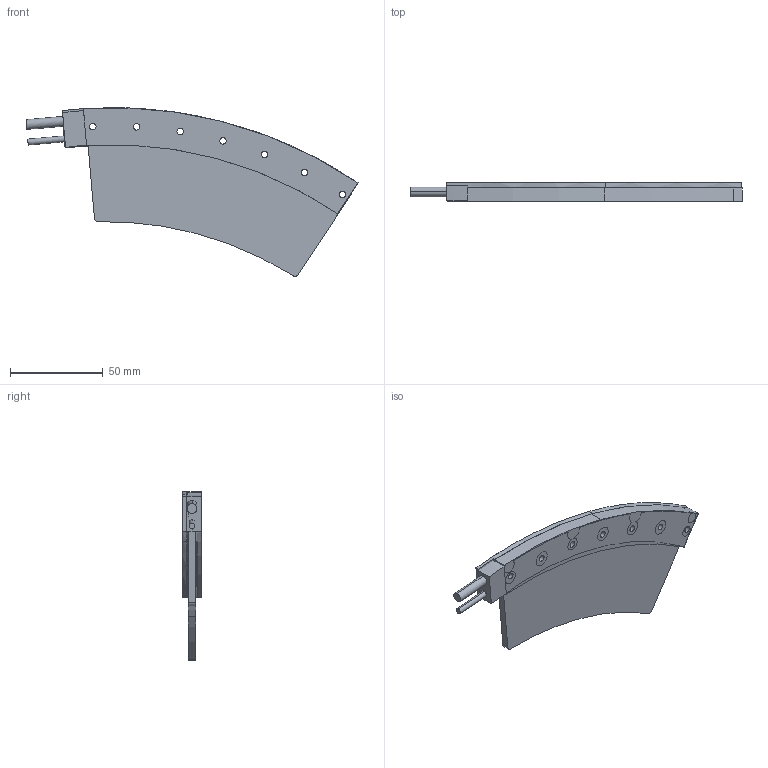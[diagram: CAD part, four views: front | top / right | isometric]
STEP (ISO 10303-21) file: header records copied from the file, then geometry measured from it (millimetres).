
FILE_DESCRIPTION (( 'STEP AP203' ), '1' );
FILE_NAME ('ILC59-6 3D.STEP', '2020-07-21T20:30:33', ( '' ), ( '' ), 'SwSTEP 2.0', 'SolidWorks 2018', '' );
FILE_SCHEMA (( 'CONFIG_CONTROL_DESIGN' ));
Length unit declared in the file: millimetre
Products named in the file (5): ILC59-6 resin; ILC59-6 housing; socket countersunk head screw_din_DIN 7991 - M3 x 8 --- 4.8N; ILC59-6 3D; ILC59-6 housing Upper (2)
Assembly tree (4 placements, depth 2):
  ILC59-6 3D
    ILC59-6 housing
    ILC59-6 housing Upper (2)
    ILC59-6 resin
    socket countersunk head screw_din_DIN 7991 - M3 x 8 --- 4.8N
Bounding box: 179.27 x 10 x 91.05 mm (x, y, z)
Volume: 63333.3 mm3; surface area: 38763.1 mm2
Topology: 4 solids, 4 shells, 210 faces, 550 edges, 349 vertices
Faces by surface type: cylinder 125, plane 49, cone 24, torus 12
Entity records: 7275 total; most frequent: CARTESIAN_POINT 1336, DIRECTION 1228, ORIENTED_EDGE 1080, EDGE_CURVE 540, AXIS2_PLACEMENT_3D 499, VERTEX_POINT 349, CIRCLE 282, EDGE_LOOP 269
